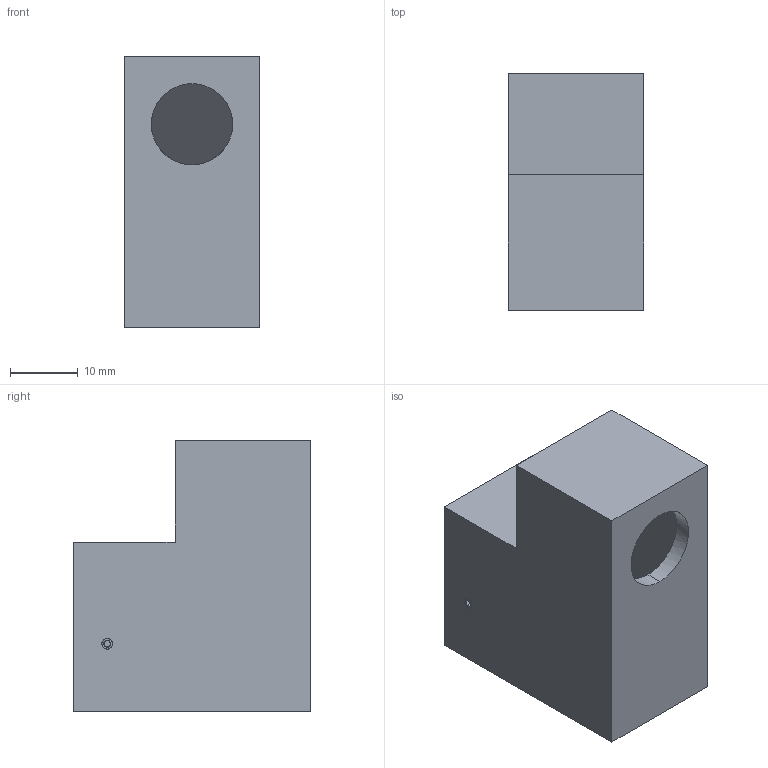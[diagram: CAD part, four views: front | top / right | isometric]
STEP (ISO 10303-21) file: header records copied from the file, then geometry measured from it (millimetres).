
FILE_DESCRIPTION (( 'STEP AP214' ), '1' );
FILE_NAME ('MML-P2.STEP', '2026-02-24T04:52:33', ( '' ), ( '' ), 'SwSTEP 2.0', 'SolidWorks 2025', '' );
FILE_SCHEMA (( 'AUTOMOTIVE_DESIGN' ));
Length unit declared in the file: millimetre
Products named in the file (1): MML-P2
Bounding box: 20 x 35 x 40 mm (x, y, z)
Volume: 14691.5 mm3; surface area: 8948.9 mm2
Topology: 1 solids, 10 shells, 314 faces, 745 edges, 457 vertices
Faces by surface type: plane 175, cone 63, cylinder 56, torus 16, sphere 4
Entity records: 9144 total; most frequent: CARTESIAN_POINT 1936, DIRECTION 1537, ORIENTED_EDGE 1454, EDGE_CURVE 727, AXIS2_PLACEMENT_3D 588, VERTEX_POINT 457, VECTOR 361, LINE 361
